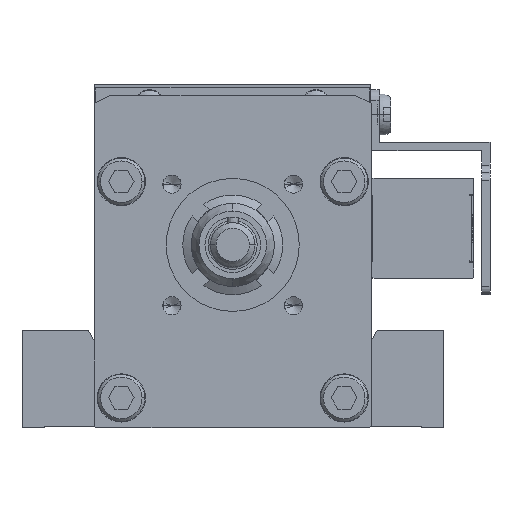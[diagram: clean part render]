
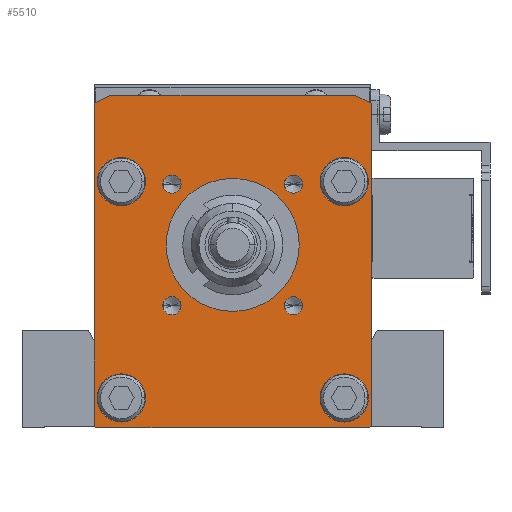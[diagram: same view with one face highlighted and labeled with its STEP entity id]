
A CAD part, front view. The second image highlights one B-rep face of the part: STEP entity #5510.
In plain terms, the highlighted planar face has unit normal (0, -1, 0) as drawn and (0, 0, -1) by its records, which use the part's own axes.
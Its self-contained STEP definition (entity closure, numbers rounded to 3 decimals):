
#3300=CARTESIAN_POINT('',(-39.83,68.249,
-29.133));
#3310=VERTEX_POINT('',#3300);
#3390=CARTESIAN_POINT('',(-31.13,68.249,
-29.133));
#3400=VERTEX_POINT('',#3390);
#3430=CARTESIAN_POINT('',(-35.48,68.249,
-29.133));
#3440=DIRECTION('',(0.,0.,1.));
#3450=DIRECTION('',(-1.,0.,0.));
#3460=AXIS2_PLACEMENT_3D('',#3430,#3440,#3450);
#3470=CIRCLE('',#3460,4.35);
#3480=EDGE_CURVE('',#3400,#3310,#3470,.T.);
#3530=CARTESIAN_POINT('',(-11.87,56.091,
-29.133));
#3540=DIRECTION('',(0.,0.,1.));
#3550=DIRECTION('',(1.,0.,0.));
#3560=AXIS2_PLACEMENT_3D('',#3530,#3540,#3550);
#3570=PLANE('',#3560);
#3580=EDGE_CURVE('',#3310,#3400,#3470,.T.);
#3590=ORIENTED_EDGE('',*,*,#3580,.T.);
#3600=ORIENTED_EDGE('',*,*,#3480,.T.);
#3610=EDGE_LOOP('',(#3600,#3590));
#3620=FACE_BOUND('',#3610,.T.);
#3630=CARTESIAN_POINT('',(4.72,68.249,
-29.133));
#3640=DIRECTION('',(0.,0.,1.));
#3650=DIRECTION('',(-1.,0.,0.));
#3660=AXIS2_PLACEMENT_3D('',#3630,#3640,#3650);
#3670=CIRCLE('',#3660,4.35);
#3680=CARTESIAN_POINT('',(9.07,68.249,
-29.133));
#3690=VERTEX_POINT('',#3680);
#3700=CARTESIAN_POINT('',(0.37,68.249,
-29.133));
#3710=VERTEX_POINT('',#3700);
#3720=EDGE_CURVE('',#3690,#3710,#3670,.T.);
#3730=ORIENTED_EDGE('',*,*,#3720,.T.);
#3740=EDGE_CURVE('',#3710,#3690,#3670,.T.);
#3750=ORIENTED_EDGE('',*,*,#3740,.T.);
#3760=EDGE_LOOP('',(#3750,#3730));
#3770=FACE_BOUND('',#3760,.T.);
#3780=CARTESIAN_POINT('',(4.72,29.249,
-29.133));
#3790=DIRECTION('',(0.,0.,1.));
#3800=DIRECTION('',(-1.,0.,0.));
#3810=AXIS2_PLACEMENT_3D('',#3780,#3790,#3800);
#3820=CIRCLE('',#3810,4.35);
#3830=CARTESIAN_POINT('',(9.07,29.249,
-29.133));
#3840=VERTEX_POINT('',#3830);
#3850=CARTESIAN_POINT('',(0.37,29.249,
-29.133));
#3860=VERTEX_POINT('',#3850);
#3870=EDGE_CURVE('',#3840,#3860,#3820,.T.);
#3880=ORIENTED_EDGE('',*,*,#3870,.T.);
#3890=EDGE_CURVE('',#3860,#3840,#3820,.T.);
#3900=ORIENTED_EDGE('',*,*,#3890,.T.);
#3910=EDGE_LOOP('',(#3900,#3880));
#3920=FACE_BOUND('',#3910,.T.);
#3930=CARTESIAN_POINT('',(-15.38,56.849,
-29.133));
#3940=DIRECTION('',(0.,0.,-1.));
#3950=DIRECTION('',(1.,0.,0.));
#3960=AXIS2_PLACEMENT_3D('',#3930,#3940,#3950);
#3970=CIRCLE('',#3960,12.);
#3980=CARTESIAN_POINT('',(-3.38,56.849,
-29.133));
#3990=VERTEX_POINT('',#3980);
#4000=CARTESIAN_POINT('',(-27.38,56.849,
-29.133));
#4010=VERTEX_POINT('',#4000);
#4020=EDGE_CURVE('',#3990,#4010,#3970,.T.);
#4030=ORIENTED_EDGE('',*,*,#4020,.F.);
#4040=EDGE_CURVE('',#4010,#3990,#3970,.T.);
#4050=ORIENTED_EDGE('',*,*,#4040,.F.);
#4060=EDGE_LOOP('',(#4050,#4030));
#4070=FACE_BOUND('',#4060,.T.);
#4080=CARTESIAN_POINT('',(-26.34,45.889,
-29.133));
#4090=DIRECTION('',(0.,0.,1.));
#4100=DIRECTION('',(-1.,0.,0.));
#4110=AXIS2_PLACEMENT_3D('',#4080,#4090,#4100);
#4120=CIRCLE('',#4110,1.65);
#4130=CARTESIAN_POINT('',(-24.69,45.889,
-29.133));
#4140=VERTEX_POINT('',#4130);
#4150=CARTESIAN_POINT('',(-27.99,45.889,
-29.133));
#4160=VERTEX_POINT('',#4150);
#4170=EDGE_CURVE('',#4140,#4160,#4120,.T.);
#4180=ORIENTED_EDGE('',*,*,#4170,.T.);
#4190=EDGE_CURVE('',#4160,#4140,#4120,.T.);
#4200=ORIENTED_EDGE('',*,*,#4190,.T.);
#4210=EDGE_LOOP('',(#4200,#4180));
#4220=FACE_BOUND('',#4210,.T.);
#4230=CARTESIAN_POINT('',(-26.34,67.809,
-29.133));
#4240=DIRECTION('',(0.,0.,1.));
#4250=DIRECTION('',(-1.,0.,0.));
#4260=AXIS2_PLACEMENT_3D('',#4230,#4240,#4250);
#4270=CIRCLE('',#4260,1.65);
#4280=CARTESIAN_POINT('',(-27.99,67.809,
-29.133));
#4290=VERTEX_POINT('',#4280);
#4300=CARTESIAN_POINT('',(-24.69,67.809,
-29.133));
#4310=VERTEX_POINT('',#4300);
#4320=EDGE_CURVE('',#4290,#4310,#4270,.T.);
#4330=ORIENTED_EDGE('',*,*,#4320,.T.);
#4340=EDGE_CURVE('',#4310,#4290,#4270,.T.);
#4350=ORIENTED_EDGE('',*,*,#4340,.T.);
#4360=EDGE_LOOP('',(#4350,#4330));
#4370=FACE_BOUND('',#4360,.T.);
#4380=CARTESIAN_POINT('',(-4.42,67.809,
-29.133));
#4390=DIRECTION('',(0.,0.,-1.));
#4400=DIRECTION('',(1.,0.,0.));
#4410=AXIS2_PLACEMENT_3D('',#4380,#4390,#4400);
#4420=CIRCLE('',#4410,1.65);
#4430=CARTESIAN_POINT('',(-2.77,67.809,
-29.133));
#4440=VERTEX_POINT('',#4430);
#4450=CARTESIAN_POINT('',(-6.07,67.809,
-29.133));
#4460=VERTEX_POINT('',#4450);
#4470=EDGE_CURVE('',#4440,#4460,#4420,.T.);
#4480=ORIENTED_EDGE('',*,*,#4470,.F.);
#4490=EDGE_CURVE('',#4460,#4440,#4420,.T.);
#4500=ORIENTED_EDGE('',*,*,#4490,.F.);
#4510=EDGE_LOOP('',(#4500,#4480));
#4520=FACE_BOUND('',#4510,.T.);
#4530=CARTESIAN_POINT('',(-4.42,45.889,
-29.133));
#4540=DIRECTION('',(0.,0.,-1.));
#4550=DIRECTION('',(1.,0.,0.));
#4560=AXIS2_PLACEMENT_3D('',#4530,#4540,#4550);
#4570=CIRCLE('',#4560,1.65);
#4580=CARTESIAN_POINT('',(-6.07,45.889,
-29.133));
#4590=VERTEX_POINT('',#4580);
#4600=CARTESIAN_POINT('',(-2.77,45.889,
-29.133));
#4610=VERTEX_POINT('',#4600);
#4620=EDGE_CURVE('',#4590,#4610,#4570,.T.);
#4630=ORIENTED_EDGE('',*,*,#4620,.F.);
#4640=EDGE_CURVE('',#4610,#4590,#4570,.T.);
#4650=ORIENTED_EDGE('',*,*,#4640,.F.);
#4660=EDGE_LOOP('',(#4650,#4630));
#4670=FACE_BOUND('',#4660,.T.);
#4680=CARTESIAN_POINT('',(-35.48,29.249,
-29.133));
#4690=DIRECTION('',(0.,0.,1.));
#4700=DIRECTION('',(-1.,0.,0.));
#4710=AXIS2_PLACEMENT_3D('',#4680,#4690,#4700);
#4720=CIRCLE('',#4710,4.35);
#4730=CARTESIAN_POINT('',(-39.83,29.249,
-29.133));
#4740=VERTEX_POINT('',#4730);
#4750=CARTESIAN_POINT('',(-31.13,29.249,
-29.133));
#4760=VERTEX_POINT('',#4750);
#4770=EDGE_CURVE('',#4740,#4760,#4720,.T.);
#4780=ORIENTED_EDGE('',*,*,#4770,.T.);
#4790=EDGE_CURVE('',#4760,#4740,#4720,.T.);
#4800=ORIENTED_EDGE('',*,*,#4790,.T.);
#4810=EDGE_LOOP('',(#4800,#4780));
#4820=FACE_BOUND('',#4810,.T.);
#4830=CARTESIAN_POINT('',(9.12,24.349,
-29.133));
#4840=DIRECTION('',(0.,0.,-1.));
#4850=DIRECTION('',(1.,0.,0.));
#4860=AXIS2_PLACEMENT_3D('',#4830,#4840,#4850);
#4870=CIRCLE('',#4860,0.5);
#4880=CARTESIAN_POINT('',(9.62,24.349,
-29.133));
#4890=VERTEX_POINT('',#4880);
#4900=CARTESIAN_POINT('',(9.12,23.849,
-29.133));
#4910=VERTEX_POINT('',#4900);
#4920=EDGE_CURVE('',#4890,#4910,#4870,.T.);
#4930=ORIENTED_EDGE('',*,*,#4920,.T.);
#4940=CARTESIAN_POINT('',(9.62,82.349,
-29.133));
#4950=DIRECTION('',(0.,-1.,0.));
#4960=VECTOR('',#4950,1.);
#4970=LINE('',#4940,#4960);
#4980=CARTESIAN_POINT('',(9.62,82.349,
-29.133));
#4990=VERTEX_POINT('',#4980);
#5000=EDGE_CURVE('',#4990,#4890,#4970,.T.);
#5010=ORIENTED_EDGE('',*,*,#5000,.T.);
#5020=CARTESIAN_POINT('',(9.62,82.349,
-29.133));
#5030=DIRECTION('',(-0.894,0.447,0.));
#5040=VECTOR('',#5030,1.);
#5050=LINE('',#5020,#5040);
#5060=CARTESIAN_POINT('',(6.62,83.849,
-29.133));
#5070=VERTEX_POINT('',#5060);
#5080=EDGE_CURVE('',#4990,#5070,#5050,.T.);
#5090=ORIENTED_EDGE('',*,*,#5080,.F.);
#5100=CARTESIAN_POINT('',(-37.38,83.849,
-29.133));
#5110=DIRECTION('',(1.,0.,0.));
#5120=VECTOR('',#5110,1.);
#5130=LINE('',#5100,#5120);
#5140=CARTESIAN_POINT('',(-37.38,83.849,
-29.133));
#5150=VERTEX_POINT('',#5140);
#5160=EDGE_CURVE('',#5150,#5070,#5130,.T.);
#5170=ORIENTED_EDGE('',*,*,#5160,.T.);
#5180=CARTESIAN_POINT('',(-40.38,82.349,
-29.133));
#5190=DIRECTION('',(0.894,0.447,0.));
#5200=VECTOR('',#5190,1.);
#5210=LINE('',#5180,#5200);
#5220=CARTESIAN_POINT('',(-40.38,82.349,
-29.133));
#5230=VERTEX_POINT('',#5220);
#5240=EDGE_CURVE('',#5230,#5150,#5210,.T.);
#5250=ORIENTED_EDGE('',*,*,#5240,.T.);
#5260=CARTESIAN_POINT('',(-40.38,24.349,
-29.133));
#5270=DIRECTION('',(0.,1.,0.));
#5280=VECTOR('',#5270,1.);
#5290=LINE('',#5260,#5280);
#5300=CARTESIAN_POINT('',(-40.38,24.349,
-29.133));
#5310=VERTEX_POINT('',#5300);
#5320=EDGE_CURVE('',#5310,#5230,#5290,.T.);
#5330=ORIENTED_EDGE('',*,*,#5320,.T.);
#5340=CARTESIAN_POINT('',(-39.88,24.349,
-29.133));
#5350=DIRECTION('',(0.,0.,-1.));
#5360=DIRECTION('',(0.,-1.,0.));
#5370=AXIS2_PLACEMENT_3D('',#5340,#5350,#5360);
#5380=CIRCLE('',#5370,0.5);
#5390=CARTESIAN_POINT('',(-39.88,23.849,
-29.133));
#5400=VERTEX_POINT('',#5390);
#5410=EDGE_CURVE('',#5400,#5310,#5380,.T.);
#5420=ORIENTED_EDGE('',*,*,#5410,.T.);
#5430=CARTESIAN_POINT('',(9.12,23.849,
-29.133));
#5440=DIRECTION('',(-1.,0.,0.));
#5450=VECTOR('',#5440,1.);
#5460=LINE('',#5430,#5450);
#5470=EDGE_CURVE('',#4910,#5400,#5460,.T.);
#5480=ORIENTED_EDGE('',*,*,#5470,.T.);
#5490=EDGE_LOOP('',(#5480,#5420,#5330,#5250,#5170,#5090,#5010,#4930));
#5500=FACE_OUTER_BOUND('',#5490,.T.);
#5510=ADVANCED_FACE('',(#3620,#3770,#3920,#4070,#4220,#4370,#4520,#4670,
#4820,#5500),#3570,.F.);
